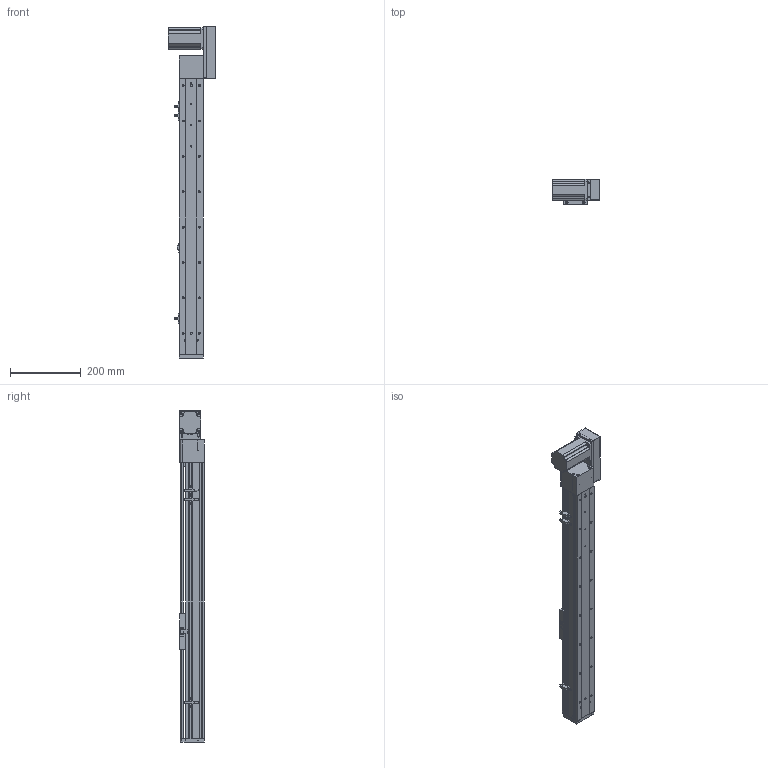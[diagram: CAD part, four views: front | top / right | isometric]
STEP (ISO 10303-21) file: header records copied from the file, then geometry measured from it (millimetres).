
FILE_DESCRIPTION (( 'STEP AP203' ), '1' );
FILE_NAME ('ML68-S600-CL.STEP', '2016-08-04T11:52:20', ( '' ), ( '' ), 'SwSTEP 2.0', 'SolidWorks 2014', '' );
FILE_SCHEMA (( 'CONFIG_CONTROL_DESIGN' ));
Length unit declared in the file: millimetre
Products named in the file (12): 三协电机MH201N2_預設; QS68左右折电机板罩子; ML68-BR傷啣; QS68酘衵殏萇儂啣; ML68奻裔^ML68-S600-CL; ML68雄赽釱; ML68傷啣; ML68菁釱^ML68-S600-CL; 換覜ん; ML68-S600-CL; ML68滅鳥啣盓傅輸媼; 60換覜結え
Assembly tree (13 placements, depth 2):
  ML68-S600-CL
    ML68菁釱^ML68-S600-CL
    ML68奻裔^ML68-S600-CL
    60換覜結え
    ML68-BR傷啣
    換覜ん  x3
    ML68傷啣
    三协电机MH201N2_預設
    ML68雄赽釱
    QS68酘衵殏萇儂啣
    QS68左右折电机板罩子
    ML68滅鳥啣盓傅輸媼
Bounding box: 133.5 x 70.5 x 938.5 mm (x, y, z)
Volume: 1657587.3 mm3; surface area: 617676.8 mm2
Topology: 13 solids, 13 shells, 921 faces, 2522 edges, 1603 vertices
Faces by surface type: cylinder 422, plane 407, cone 92
Entity records: 29294 total; most frequent: CARTESIAN_POINT 5654, DIRECTION 4784, ORIENTED_EDGE 4552, EDGE_CURVE 2276, AXIS2_PLACEMENT_3D 1729, VERTEX_POINT 1491, VECTOR 1326, LINE 1326
